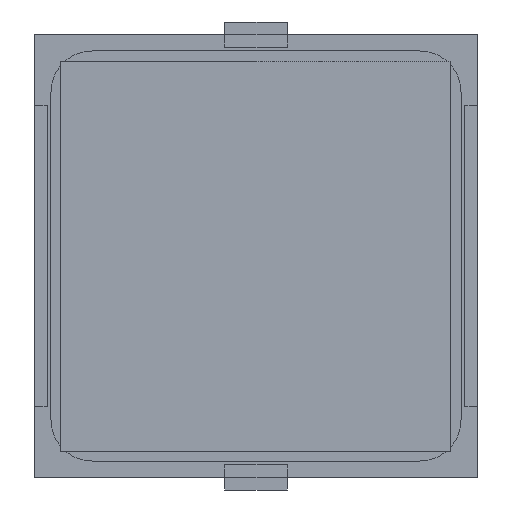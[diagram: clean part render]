
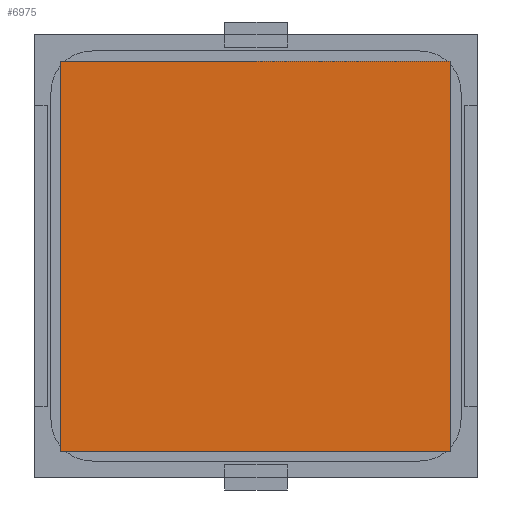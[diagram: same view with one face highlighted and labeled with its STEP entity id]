
A CAD part, front view. The second image highlights one B-rep face of the part: STEP entity #6975.
In plain terms, the highlighted planar face has unit normal (0, -1, 0).
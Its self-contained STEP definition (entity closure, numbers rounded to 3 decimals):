
#50 = FACE_OUTER_BOUND ( 'NONE', #4978, .T. ) ;
#310 = AXIS2_PLACEMENT_3D ( 'NONE', #1929, #3096, #6878 ) ;
#392 = EDGE_CURVE ( 'NONE', #2785, #1278, #6922, .T. ) ;
#737 = LINE ( 'NONE', #1222, #1332 ) ;
#869 = ORIENTED_EDGE ( 'NONE', *, *, #392, .F. ) ;
#1222 = CARTESIAN_POINT ( 'NONE',  ( -15.5, -0.127, -15.5 ) ) ;
#1278 = VERTEX_POINT ( 'NONE', #4533 ) ;
#1332 = VECTOR ( 'NONE', #5191, 1000. ) ;
#1483 = EDGE_CURVE ( 'NONE', #1278, #3101, #737, .T. ) ;
#1506 = ORIENTED_EDGE ( 'NONE', *, *, #8105, .F. ) ;
#1672 = DIRECTION ( 'NONE',  ( 1., 0., 0. ) ) ;
#1929 = CARTESIAN_POINT ( 'NONE',  ( -15.5, -0.127, 15.5 ) ) ;
#2011 = DIRECTION ( 'NONE',  ( 0., 0., -1. ) ) ;
#2202 = EDGE_CURVE ( 'NONE', #3848, #2785, #5323, .T. ) ;
#2501 = DIRECTION ( 'NONE',  ( -1., 0., 0. ) ) ;
#2502 = ORIENTED_EDGE ( 'NONE', *, *, #1483, .F. ) ;
#2785 = VERTEX_POINT ( 'NONE', #6538 ) ;
#2937 = ORIENTED_EDGE ( 'NONE', *, *, #2202, .F. ) ;
#3096 = DIRECTION ( 'NONE',  ( 0., 1., 0. ) ) ;
#3101 = VERTEX_POINT ( 'NONE', #3201 ) ;
#3201 = CARTESIAN_POINT ( 'NONE',  ( -15.5, -0.127, 15.5 ) ) ;
#3612 = VECTOR ( 'NONE', #2011, 1000. ) ;
#3829 = CARTESIAN_POINT ( 'NONE',  ( -15.5, -0.127, -15.5 ) ) ;
#3848 = VERTEX_POINT ( 'NONE', #3923 ) ;
#3923 = CARTESIAN_POINT ( 'NONE',  ( 15.5, -0.127, 15.5 ) ) ;
#4315 = PLANE ( 'NONE',  #310 ) ;
#4359 = VECTOR ( 'NONE', #1672, 1000. ) ;
#4533 = CARTESIAN_POINT ( 'NONE',  ( -15.5, -0.127, -15.5 ) ) ;
#4805 = CARTESIAN_POINT ( 'NONE',  ( -15.5, -0.127, 15.5 ) ) ;
#4978 = EDGE_LOOP ( 'NONE', ( #2502, #869, #2937, #1506 ) ) ;
#5191 = DIRECTION ( 'NONE',  ( 0., 0., 1. ) ) ;
#5323 = LINE ( 'NONE', #7737, #3612 ) ;
#5324 = VECTOR ( 'NONE', #2501, 1000. ) ;
#6046 = LINE ( 'NONE', #4805, #4359 ) ;
#6538 = CARTESIAN_POINT ( 'NONE',  ( 15.5, -0.127, -15.5 ) ) ;
#6878 = DIRECTION ( 'NONE',  ( 0., 0., 1. ) ) ;
#6922 = LINE ( 'NONE', #3829, #5324 ) ;
#6975 = ADVANCED_FACE ( 'NONE', ( #50 ), #4315, .F. ) ;
#7737 = CARTESIAN_POINT ( 'NONE',  ( 15.5, -0.127, -15.5 ) ) ;
#8105 = EDGE_CURVE ( 'NONE', #3101, #3848, #6046, .T. ) ;
